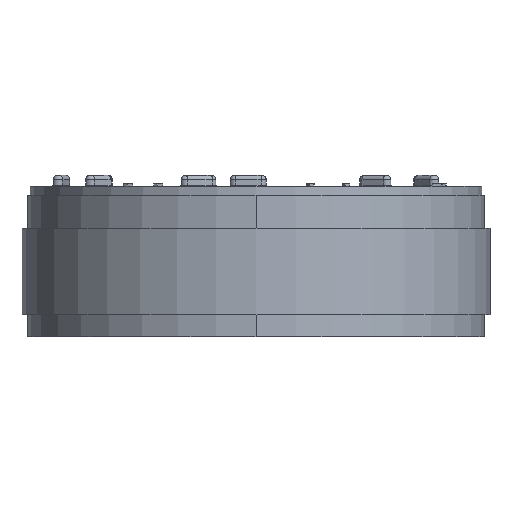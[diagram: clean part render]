
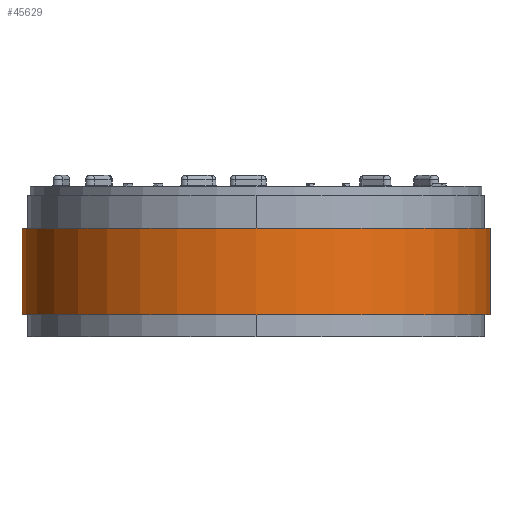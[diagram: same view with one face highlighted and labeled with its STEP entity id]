
A CAD part, front view. The second image highlights one B-rep face of the part: STEP entity #45629.
In plain terms, the highlighted cylindrical face has radius 42.5 mm (diameter 85 mm), a partial arc.
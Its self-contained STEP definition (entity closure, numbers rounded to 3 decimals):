
#1124 = AXIS2_PLACEMENT_3D ( 'NONE', #20888, #39413, #18699 ) ;
#2306 = CYLINDRICAL_SURFACE ( 'NONE', #1124, 42.5 ) ;
#3959 = VECTOR ( 'NONE', #7138, 1000. ) ;
#4734 = AXIS2_PLACEMENT_3D ( 'NONE', #20224, #24193, #33327 ) ;
#6416 = CARTESIAN_POINT ( 'NONE',  ( 1., 42.488, 7.85 ) ) ;
#6425 = VECTOR ( 'NONE', #34521, 1000. ) ;
#7138 = DIRECTION ( 'NONE',  ( 0., 0., 1. ) ) ;
#7187 = EDGE_CURVE ( 'NONE', #58062, #11125, #11684, .T. ) ;
#11125 = VERTEX_POINT ( 'NONE', #32667 ) ;
#11684 = LINE ( 'NONE', #48782, #6425 ) ;
#13578 = ORIENTED_EDGE ( 'NONE', *, *, #40329, .T. ) ;
#14939 = CARTESIAN_POINT ( 'NONE',  ( 0., 0., 7.85 ) ) ;
#18699 = DIRECTION ( 'NONE',  ( 0., 1., 0. ) ) ;
#20224 = CARTESIAN_POINT ( 'NONE',  ( 0., 0., -7.85 ) ) ;
#20888 = CARTESIAN_POINT ( 'NONE',  ( 0., 0., 7.85 ) ) ;
#24193 = DIRECTION ( 'NONE',  ( 0., 0., 1. ) ) ;
#24206 = CIRCLE ( 'NONE', #31998, 42.5 ) ;
#24265 = CARTESIAN_POINT ( 'NONE',  ( -1., 42.488, 7.85 ) ) ;
#28040 = DIRECTION ( 'NONE',  ( 0., 0., 1. ) ) ;
#29389 = LINE ( 'NONE', #39088, #3959 ) ;
#29865 = CARTESIAN_POINT ( 'NONE',  ( 1., 42.488, -7.85 ) ) ;
#30837 = EDGE_CURVE ( 'NONE', #37745, #53551, #29389, .T. ) ;
#31998 = AXIS2_PLACEMENT_3D ( 'NONE', #14939, #28040, #47472 ) ;
#32667 = CARTESIAN_POINT ( 'NONE',  ( -1., 42.488, -7.85 ) ) ;
#33327 = DIRECTION ( 'NONE',  ( 0., -1., 0. ) ) ;
#34521 = DIRECTION ( 'NONE',  ( 0., 0., -1. ) ) ;
#37005 = ORIENTED_EDGE ( 'NONE', *, *, #7187, .T. ) ;
#37745 = VERTEX_POINT ( 'NONE', #29865 ) ;
#39088 = CARTESIAN_POINT ( 'NONE',  ( 1., 42.488, -6.65 ) ) ;
#39413 = DIRECTION ( 'NONE',  ( 0., 0., -1. ) ) ;
#40329 = EDGE_CURVE ( 'NONE', #11125, #37745, #40711, .T. ) ;
#40711 = CIRCLE ( 'NONE', #4734, 42.5 ) ;
#43798 = EDGE_LOOP ( 'NONE', ( #13578, #55711, #50683, #37005 ) ) ;
#43989 = FACE_OUTER_BOUND ( 'NONE', #43798, .T. ) ;
#45629 = ADVANCED_FACE ( 'NONE', ( #43989 ), #2306, .T. ) ;
#46782 = EDGE_CURVE ( 'NONE', #58062, #53551, #24206, .T. ) ;
#47472 = DIRECTION ( 'NONE',  ( 0., -1., 0. ) ) ;
#48782 = CARTESIAN_POINT ( 'NONE',  ( -1., 42.488, -6.65 ) ) ;
#50683 = ORIENTED_EDGE ( 'NONE', *, *, #46782, .F. ) ;
#53551 = VERTEX_POINT ( 'NONE', #6416 ) ;
#55711 = ORIENTED_EDGE ( 'NONE', *, *, #30837, .T. ) ;
#58062 = VERTEX_POINT ( 'NONE', #24265 ) ;
